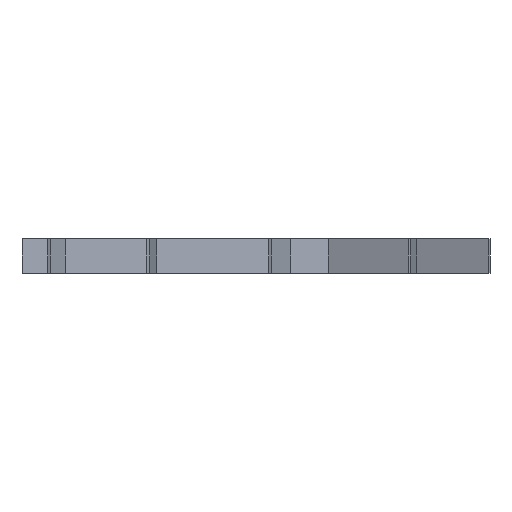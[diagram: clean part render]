
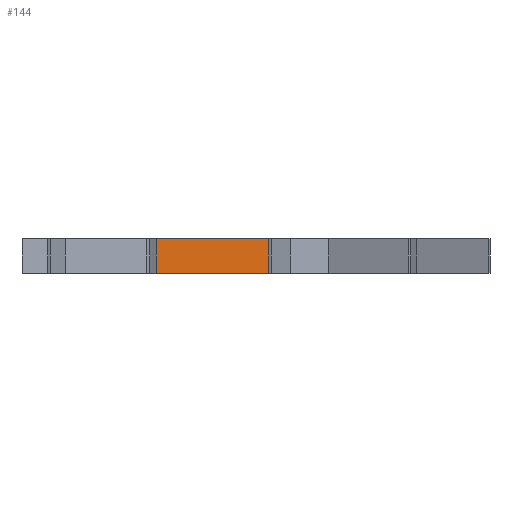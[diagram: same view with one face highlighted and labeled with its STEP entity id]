
A CAD part, front view. The second image highlights one B-rep face of the part: STEP entity #144.
In plain terms, the highlighted planar face has unit normal (0.087, -0.996, 0).
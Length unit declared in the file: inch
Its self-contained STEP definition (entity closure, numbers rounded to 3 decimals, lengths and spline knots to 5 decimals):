
#144=ADVANCED_FACE('',(#286),#2452,.T.);
#286=FACE_OUTER_BOUND('',#428,.T.);
#428=EDGE_LOOP('',(#928,#929,#930,#931));
#928=ORIENTED_EDGE('',*,*,#1405,.F.);
#929=ORIENTED_EDGE('',*,*,#1398,.T.);
#930=ORIENTED_EDGE('',*,*,#1404,.T.);
#931=ORIENTED_EDGE('',*,*,#1636,.F.);
#1398=EDGE_CURVE('',#2212,#2213,#1818,.T.);
#1404=EDGE_CURVE('',#2213,#2369,#1824,.T.);
#1405=EDGE_CURVE('',#2212,#2368,#1825,.T.);
#1636=EDGE_CURVE('',#2368,#2369,#2056,.T.);
#1818=B_SPLINE_CURVE_WITH_KNOTS('',1,(#3381,#3382),.UNSPECIFIED.,.F.,.F.,
(2,2),(-6.,0.),.UNSPECIFIED.);
#1824=B_SPLINE_CURVE_WITH_KNOTS('',1,(#3393,#3394),.UNSPECIFIED.,.F.,.F.,
(2,2),(54.55039,82.87169),.UNSPECIFIED.);
#1825=B_SPLINE_CURVE_WITH_KNOTS('',1,(#3395,#3396),.UNSPECIFIED.,.F.,.F.,
(2,2),(54.55039,82.87169),.UNSPECIFIED.);
#2056=B_SPLINE_CURVE_WITH_KNOTS('',1,(#3857,#3858),.UNSPECIFIED.,.F.,.F.,
(2,2),(-6.,0.),.UNSPECIFIED.);
#2212=VERTEX_POINT('',#2989);
#2213=VERTEX_POINT('',#2990);
#2368=VERTEX_POINT('',#3145);
#2369=VERTEX_POINT('',#3146);
#2452=PLANE('',#2643);
#2643=AXIS2_PLACEMENT_3D('',#2849,#2746,$);
#2746=DIRECTION('',(0.087,-0.996,0.));
#2849=CARTESIAN_POINT('',(-64.53706,-388.31812,0.));
#2989=CARTESIAN_POINT('',(-40.8806,-386.24845,6.));
#2990=CARTESIAN_POINT('',(-40.8806,-386.24845,0.));
#3145=CARTESIAN_POINT('',(-17.81835,-384.23076,6.));
#3146=CARTESIAN_POINT('',(-17.81835,-384.23076,0.));
#3381=CARTESIAN_POINT('',(-40.8806,-386.24845,6.));
#3382=CARTESIAN_POINT('',(-40.8806,-386.24845,0.));
#3393=CARTESIAN_POINT('',(-40.8806,-386.24845,0.));
#3394=CARTESIAN_POINT('',(-17.81835,-384.23076,0.));
#3395=CARTESIAN_POINT('',(-40.8806,-386.24845,6.));
#3396=CARTESIAN_POINT('',(-17.81835,-384.23076,6.));
#3857=CARTESIAN_POINT('',(-17.81835,-384.23076,6.));
#3858=CARTESIAN_POINT('',(-17.81835,-384.23076,0.));
